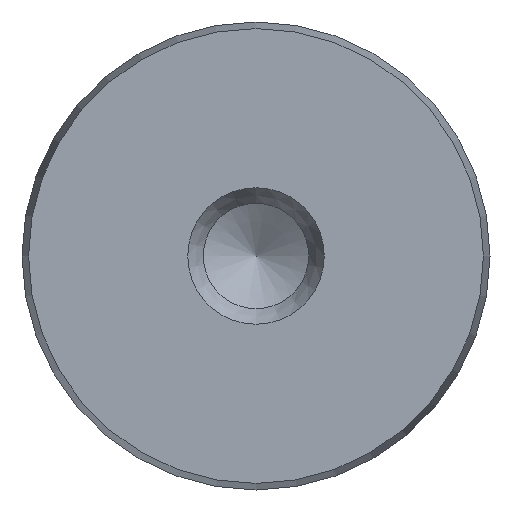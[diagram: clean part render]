
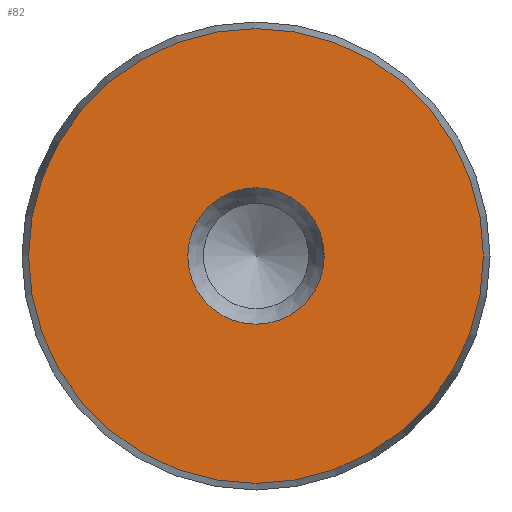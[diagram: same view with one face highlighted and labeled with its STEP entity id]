
A CAD part, front view. The second image highlights one B-rep face of the part: STEP entity #82.
In plain terms, the highlighted planar face has unit normal (0, -1, 0).
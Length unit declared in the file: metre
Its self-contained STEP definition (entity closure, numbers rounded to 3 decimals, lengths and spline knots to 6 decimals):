
#82 = ADVANCED_FACE( '', ( #108, #109 ), #110, .T. );
#108 = FACE_BOUND( '', #150, .T. );
#109 = FACE_OUTER_BOUND( '', #151, .T. );
#110 = PLANE( '', #152 );
#150 = EDGE_LOOP( '', ( #202 ) );
#151 = EDGE_LOOP( '', ( #203 ) );
#152 = AXIS2_PLACEMENT_3D( '', #204, #205, #206 );
#202 = ORIENTED_EDGE( '', *, *, #252, .T. );
#203 = ORIENTED_EDGE( '', *, *, #254, .T. );
#204 = CARTESIAN_POINT( '', ( 0., -0.1575, 0. ) );
#205 = DIRECTION( '', ( 0., -1., 0. ) );
#206 = DIRECTION( '', ( 0., 0., -1. ) );
#252 = EDGE_CURVE( '', #270, #270, #271, .F. );
#254 = EDGE_CURVE( '', #274, #274, #275, .T. );
#270 = VERTEX_POINT( '', #296 );
#271 = CIRCLE( '', #297, 0.004375 );
#274 = VERTEX_POINT( '', #300 );
#275 = CIRCLE( '', #301, 0.014578 );
#296 = CARTESIAN_POINT( '', ( 0., -0.1575, -0.004375 ) );
#297 = AXIS2_PLACEMENT_3D( '', #326, #327, #328 );
#300 = CARTESIAN_POINT( '', ( 0., -0.1575, -0.014578 ) );
#301 = AXIS2_PLACEMENT_3D( '', #332, #333, #334 );
#326 = CARTESIAN_POINT( '', ( 0., -0.1575, 0. ) );
#327 = DIRECTION( '', ( 0., -1., 0. ) );
#328 = DIRECTION( '', ( 0., 0., -1. ) );
#332 = CARTESIAN_POINT( '', ( 0., -0.1575, 0. ) );
#333 = DIRECTION( '', ( 0., -1., 0. ) );
#334 = DIRECTION( '', ( 0., 0., -1. ) );
